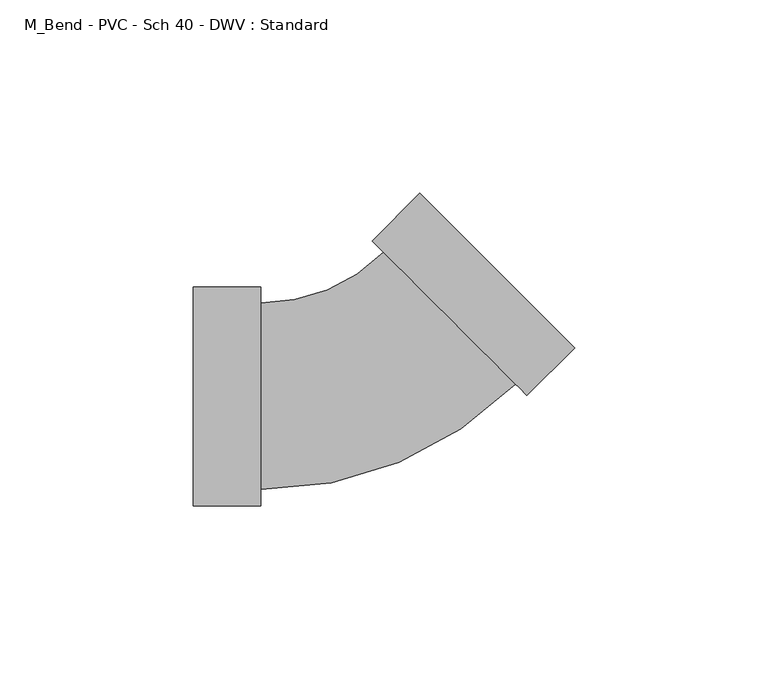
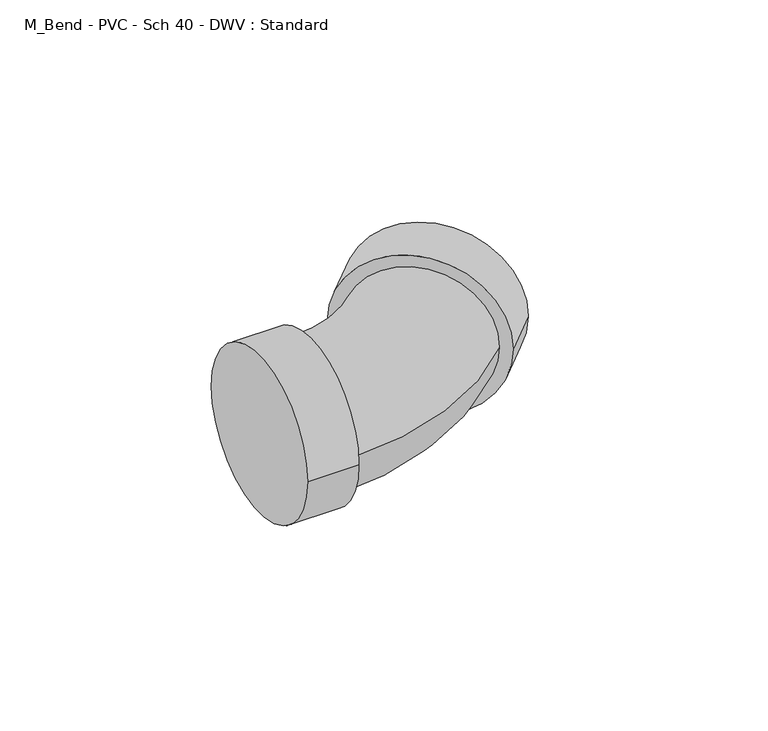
"""IFC4 building model written with IfcOpenShell, lengths in millimetres: pipe fitting geometry, M_Bend - PVC - Sch 40 - DWV : Standard."""

from ifc_helpers import new_model, si_unit, point, frame, origin, place, context, project, spatial, circle_curve, ellipse_curve, trimmed, source, transform, mapped, element, save
from ifc_brep_helpers import plane_surface, cylinder_surface, revolved_surface, advanced_brep


def m_bend_pvc_sch_40_dwv_standard_2b68841f(model_context):
    return source(origin(), model_context, "Body", "AdvancedBrep", [
        advanced_brep(
        [(-46.0248, -28.2829, 0.0), (-46.0248, 28.2829, 0.0), (-28.575, -28.2829, 0.0), (-28.575, 28.2829, 0.0), (-28.575, -24.13, 0.0), (-28.575, 24.13, 0.0), (3.1430896, 37.2680629, 0.0), (37.2680629, 3.1430896, 0.0), (40.2046067, 0.2065459, 0.0), (0.2065459, 40.2046067, 0.0), (52.5434786, 12.5454178, 0.0), (12.5454178, 52.5434786, 0.0)],
        [
            (0, 1, circle_curve(frame((-46.0248, 0.0, 0.0), z_axis=(-1.0, 0.0, 0.0), x_axis=(0.0, 1.0, 0.0)), 28.2829)),
            (1, 0, circle_curve(frame((-46.0248, 0.0, 0.0), z_axis=(-1.0, 0.0, 0.0), x_axis=(0.0, 1.0, 0.0)), 28.2829)),
            (2, 3, circle_curve(frame((-28.575, 0.0, 0.0), z_axis=(1.0, 0.0, 0.0), x_axis=(0.0, 1.0, 0.0)), 28.2829)),
            (3, 2, circle_curve(frame((-28.575, 0.0, 0.0), z_axis=(1.0, 0.0, 0.0), x_axis=(0.0, 1.0, 0.0)), 28.2829)),
            (4, 5, circle_curve(frame((-28.575, 0.0, 0.0), z_axis=(-1.0, 0.0, 0.0), x_axis=(0.0, 1.0, 0.0)), 24.13)),
            (5, 4, circle_curve(frame((-28.575, 0.0, 0.0), z_axis=(-1.0, 0.0, 0.0), x_axis=(0.0, 1.0, 0.0)), 24.13)),
            (0, 2),
            (3, 1),
            (6, 5, circle_curve(frame((-28.575, 68.9861525, 0.0), z_axis=(0.0, 0.0, -1.0), x_axis=(0.0, -1.0, 0.0)), 44.8561525)),
            (4, 7, circle_curve(frame((-28.575, 68.9861525, 0.0), z_axis=(0.0, 0.0, 1.0), x_axis=(0.0, -1.0, 0.0)), 93.1161525)),
            (7, 6, circle_curve(frame((20.2055763, 20.2055763, 0.0), z_axis=(-0.707106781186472, -0.7071067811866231, 0.0), x_axis=(-0.7071067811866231, 0.707106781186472, 0.0)), 24.13)),
            (6, 7, circle_curve(frame((20.2055763, 20.2055763, 0.0), z_axis=(-0.707106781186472, -0.7071067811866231, 0.0), x_axis=(-0.7071067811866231, 0.707106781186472, 0.0)), 24.13)),
            (8, 9, circle_curve(frame((20.2055763, 20.2055763, 0.0), z_axis=(-0.7071067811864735, -0.7071067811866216, 0.0), x_axis=(-0.7071067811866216, 0.7071067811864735, 0.0)), 28.2829)),
            (9, 8, circle_curve(frame((20.2055763, 20.2055763, 0.0), z_axis=(-0.7071067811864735, -0.7071067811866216, 0.0), x_axis=(-0.7071067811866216, 0.7071067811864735, 0.0)), 28.2829)),
            (10, 11, circle_curve(frame((32.5444482, 32.5444482, 0.0), z_axis=(0.7071067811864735, 0.7071067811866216, 0.0), x_axis=(-0.7071067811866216, 0.7071067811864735, 0.0)), 28.2829)),
            (11, 10, circle_curve(frame((32.5444482, 32.5444482, 0.0), z_axis=(0.7071067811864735, 0.7071067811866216, 0.0), x_axis=(-0.7071067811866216, 0.7071067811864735, 0.0)), 28.2829)),
            (8, 10),
            (11, 9),
        ],
        [
            plane_surface(frame((-46.0248, 0.0, 0.0), z_axis=(-1.0, 0.0, 0.0), x_axis=(0.0, 0.0, 1.0))),
            plane_surface(frame((-28.575, 0.0, 0.0), z_axis=(1.0, 0.0, 0.0), x_axis=(0.0, 0.0, 1.0))),
            cylinder_surface(frame((-46.0248, 0.0, 0.0), z_axis=(-1.0, 0.0, 0.0), x_axis=(0.0, 1.0, 0.0)), 28.2829),
            revolved_surface(trimmed(ellipse_curve(frame((-28.575, 0.0, 0.0), z_axis=(-1.0, 0.0, 0.0), x_axis=(0.0, 1.0, 0.0)), 24.13, 24.13), [point((-28.575, -24.13, 0.0))], [point((-28.575, 24.13, 0.0))], True, "CARTESIAN"), (-28.575, 68.9861525, 0.0), (0.0, 0.0, 1.0)),
            revolved_surface(trimmed(ellipse_curve(frame((-28.575, 0.0, 0.0), z_axis=(-1.0, 0.0, 0.0), x_axis=(0.0, 1.0, 0.0)), 24.13, 24.13), [point((-28.575, 24.13, 0.0))], [point((-28.575, -24.13, 0.0))], True, "CARTESIAN"), (-28.575, 68.9861525, 0.0), (0.0, 0.0, 1.0)),
            plane_surface(frame((20.2055763, 20.2055763, 0.0), z_axis=(-0.7071067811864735, -0.7071067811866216, 0.0), x_axis=(0.0, 0.0, 1.0))),
            plane_surface(frame((32.5444482, 32.5444482, 0.0), z_axis=(0.7071067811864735, 0.7071067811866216, 0.0), x_axis=(0.0, 0.0, 1.0))),
            cylinder_surface(frame((20.2055763, 20.2055763, 0.0), z_axis=(-0.7071067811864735, -0.7071067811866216, 0.0), x_axis=(-0.7071067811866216, 0.7071067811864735, 0.0)), 28.2829),
        ],
        [
            (0, [[1, 2]]),
            (1, [[3, 4], [5, 6]]),
            (2, [[-1, 7, -4, 8]]),
            (2, [[-2, -8, -3, -7]]),
            (3, [[9, -5, 10, 11]]),
            (4, [[-9, 12, -10, -6]]),
            (5, [[13, 14], [-11, -12]]),
            (6, [[15, 16]]),
            (7, [[-13, 17, -16, 18]]),
            (7, [[-14, -18, -15, -17]]),
        ],
    ),
    ])


if __name__ == "__main__":
    model = new_model("IFC4")
    model_context = context("Model", 3, world=origin())
    ifc_project = project(units=[si_unit("LENGTHUNIT", "METRE", prefix="MILLI")], contexts=[model_context])
    site = spatial("IfcSite", under=ifc_project)
    building = spatial("IfcBuilding", under=site)
    placement = place(None, origin())
    m_bend_pvc_sch_40_dwv_standard_shape = m_bend_pvc_sch_40_dwv_standard_2b68841f(model_context)
    element("IfcPipeFitting", 1, ObjectType="M_Bend - PVC - Sch 40 - DWV : Standard", at=placement, inside=building, context=model_context, shape_type="MappedRepresentation", body=[
        mapped(m_bend_pvc_sch_40_dwv_standard_shape, transform((0.0, 0.0, 0.0), x_axis=(1.0, 0.0, 0.0), y_axis=(0.0, 1.0, 0.0), z_axis=(0.0, 0.0, 1.0))),
    ])
    save(model, "model.ifc")
